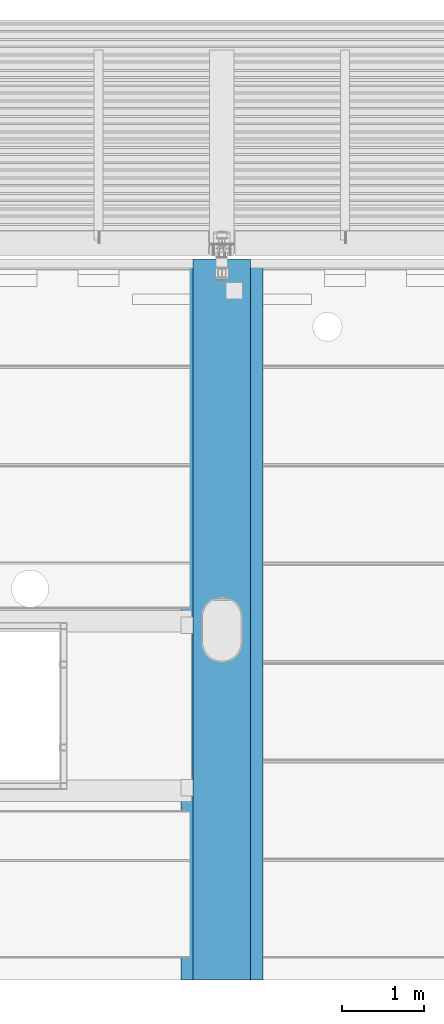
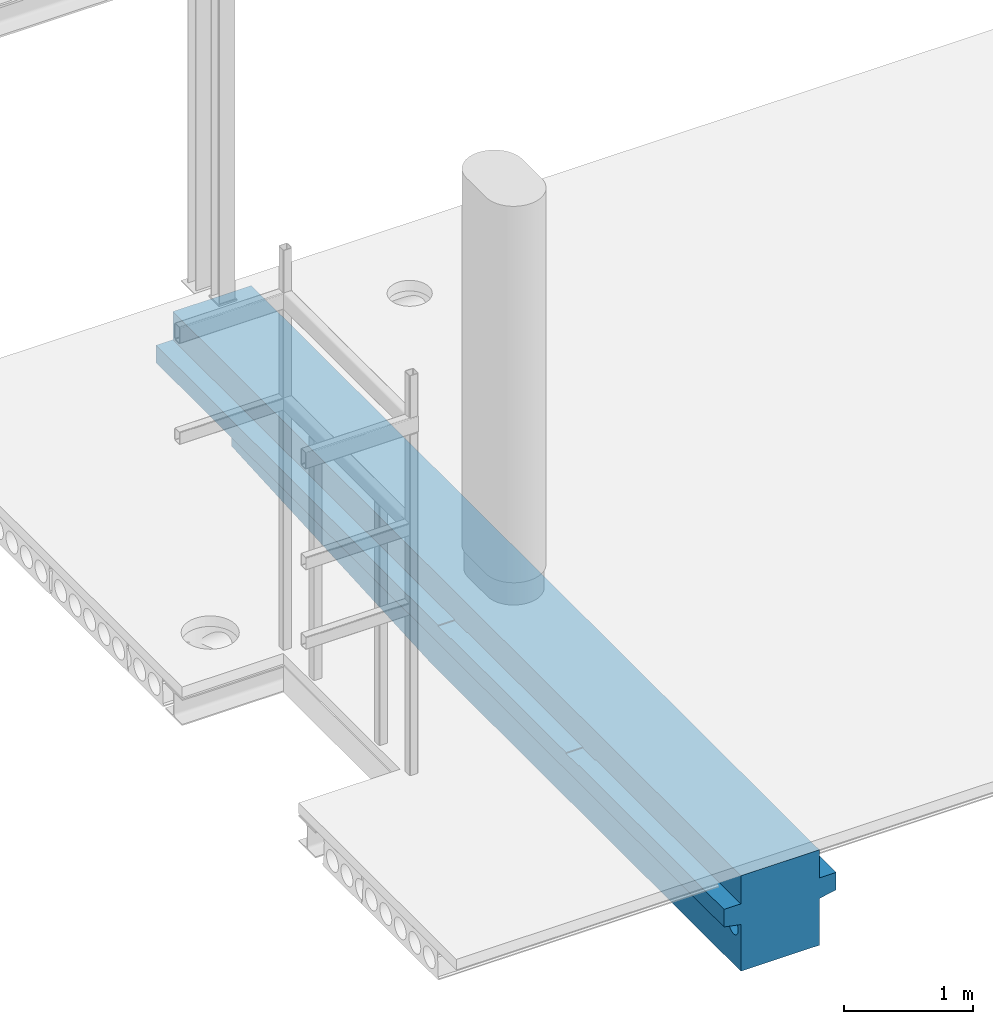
# One storey, part 21 of 34: 1 beam.
"""IFC2X3 building model written with IfcOpenShell, lengths in millimetres."""

from ifc_helpers import new_model, entity, si_unit, converted_unit, derived_unit, direction, frame, origin_with_axes, place, context, subcontext, project, spatial, faceted_brep, type_object, element, save


model = new_model("IFC2X3")

# Units and contexts
model_context = context("Model", 3, precision=0.01, world=frame((0.0, 4.29681676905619e-09, 0.0)), true_north=direction((4.01073788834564e-13, 1.0)))
plan_context = context("Plan", 3, precision=0.01, world=frame((0.0, 4.29681676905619e-09, 0.0)), true_north=direction((4.01073788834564e-13, 1.0)))
body_context = subcontext(model_context, "Body", "Model", "MODEL_VIEW")
ifc_project = project(units=[converted_unit("PLANEANGLEUNIT", "DEGREE", entity("IfcPositiveLengthMeasure", 0.0174532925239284), si_unit("PLANEANGLEUNIT", "RADIAN"), dimensions=[0, 0, 0, 0, 0, 0, 0]), si_unit("AREAUNIT", "SQUARE_METRE"), si_unit("LENGTHUNIT", "METRE", prefix="MILLI"), si_unit("MASSUNIT", "GRAM", prefix="KILO"), si_unit("POWERUNIT", "WATT"), si_unit("PRESSUREUNIT", "PASCAL"), si_unit("FORCEUNIT", "NEWTON", prefix="KILO"), si_unit("ELECTRICVOLTAGEUNIT", "VOLT"), si_unit("ELECTRICCURRENTUNIT", "AMPERE"), si_unit("THERMODYNAMICTEMPERATUREUNIT", "DEGREE_CELSIUS"), si_unit("TIMEUNIT", "SECOND"), si_unit("VOLUMEUNIT", "CUBIC_METRE"), derived_unit("LINEARVELOCITYUNIT", [(si_unit("LENGTHUNIT", "METRE"), 1), (si_unit("TIMEUNIT", "SECOND"), -1)]), derived_unit("VOLUMETRICFLOWRATEUNIT", [(si_unit("VOLUMEUNIT", "CUBIC_METRE"), 1), (si_unit("TIMEUNIT", "SECOND"), -1)]), derived_unit("THERMALTRANSMITTANCEUNIT", [(si_unit("POWERUNIT", "WATT"), 1), (si_unit("THERMODYNAMICTEMPERATUREUNIT", "KELVIN"), -1), (si_unit("AREAUNIT", "SQUARE_METRE"), -1)]), derived_unit("SOUNDPRESSUREUNIT", [(si_unit("PRESSUREUNIT", "PASCAL"), 1)])], contexts=[model_context, plan_context])

# Site, building, storey
site_placement = place(None, frame((0.0, -4.29681676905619e-09, 0.0), z_axis=(0.0, 0.0, 1.0), x_axis=(1.0, 0.0, 0.0)))
site = spatial("IfcSite", under=ifc_project, at=site_placement, Name="Gardermoen", CompositionType="ELEMENT")
building_placement = place(site_placement, frame((0.0, 4.29681676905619e-09, 0.0), z_axis=(0.0, 0.0, 1.0), x_axis=(1.0, 0.0, 0.0)))
building = spatial("IfcBuilding", under=site, at=building_placement, Name="TH", CompositionType="ELEMENT")
storey_placement = place(building_placement, origin_with_axes())
storey = spatial("IfcBuildingStorey", under=building, at=storey_placement, Name="F", CompositionType="ELEMENT", Elevation=0.0)

# Beam
beam_type = type_object("IfcBeamType", Name="AAJKORS265*195*30*900*150*700*700", PredefinedType="NOTDEFINED")
beam_placement = place(storey_placement, frame((897999.999531, 472399.995625, 209580.0), z_axis=(0.0, 0.0, 1.0), x_axis=(0.0, 1.0, 0.0)))
element("IfcBeam", 1, at=beam_placement, inside=storey, type_object=beam_type, Name="PREFABBJELKE", ObjectType="AAJKORS265*195*30*900*150*700*700", context=body_context, shape_type="Brep", body=[
    faceted_brep([(6075.00555743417, 500.0, 175.000000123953), (6075.00555743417, 350.0, 175.000000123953), (5875.00555743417, 349.999998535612, 175.000000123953), (5875.00555743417, 500.0, 175.000000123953), (5875.00555743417, 500.0, 185.0), (5875.00555743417, 350.0, 185.0), (6075.00555743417, 350.0, 185.000000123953), (3634.68129588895, 350.0, 450.0), (3634.68129588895, 350.0, 185.0), (12410.0, 350.0, 185.0), (12410.0, 350.0, 450.0), (7855.00555743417, 350.0, 185.0), (7855.00555743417, 349.999998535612, 175.000000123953), (8055.00555743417, 350.0, 175.000000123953), (8055.00555743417, 350.0, 185.000000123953), (6075.00555743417, 500.0, 185.0), (3634.68129588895, 350.0, -450.0), (3634.68129588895, -350.0, -450.0), (8399.9968947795, -350.0, -450.0), (8399.9968947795, 350.0, -450.0), (11500.0, -350.0, -269.999759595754), (11500.0, 350.0, -269.999759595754), (11500.0, -350.0, -10.0), (11500.0, 350.0, -10.0), (3822.43998449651, -350.0, -70.5855008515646), (3822.43998449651, 350.0, -70.5855008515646), (3814.94745280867, 350.0, -52.496929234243), (3814.94745280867, -350.0, -52.496929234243), (3824.99554752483, -350.0, -89.996929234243), (3824.99554752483, 350.0, -89.996929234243), (3822.43998449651, -350.0, -109.408357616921), (3822.43998449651, 350.0, -109.408357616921), (3814.94745280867, -350.0, -127.496929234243), (3814.94745280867, 350.0, -127.496929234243), (3803.02855611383, -350.0, -143.029937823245), (3803.02855611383, 350.0, -143.029937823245), (3787.49554752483, -350.0, -154.948834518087), (3787.49554752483, 350.0, -154.948834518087), (3769.40697590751, -350.0, -162.441366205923), (3769.40697590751, 350.0, -162.441366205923), (3749.99554752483, -350.0, -164.996929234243), (3749.99554752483, 350.0, -164.996929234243), (3730.58411914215, -350.0, -162.441366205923), (3730.58411914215, 350.0, -162.441366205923), (3712.49554752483, -350.0, -154.948834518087), (3712.49554752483, 350.0, -154.948834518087), (3696.96253893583, -350.0, -143.029937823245), (3696.96253893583, 350.0, -143.029937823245), (3685.04364224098, -350.0, -127.496929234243), (3685.04364224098, 350.0, -127.496929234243), (3677.55111055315, -350.0, -109.408357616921), (3677.55111055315, 350.0, -109.408357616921), (3674.99554752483, -350.0, -89.996929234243), (3674.99554752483, 350.0, -89.996929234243), (3677.55111055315, -350.0, -70.5855008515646), (3677.55111055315, 350.0, -70.5855008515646), (3685.04364224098, -350.0, -52.496929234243), (3685.04364224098, 350.0, -52.496929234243), (3696.96253893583, -350.0, -36.9639206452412), (3696.96253893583, 350.0, -36.9639206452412), (3712.49554752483, -350.0, -25.0450239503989), (3712.49554752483, 350.0, -25.0450239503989), (3730.58411914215, -350.0, -17.5524922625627), (3730.58411914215, 350.0, -17.5524922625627), (3749.99554752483, -350.0, -14.996929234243), (3749.99554752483, 350.0, -14.996929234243), (3769.40697590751, -350.0, -17.5524922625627), (3769.40697590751, 350.0, -17.5524922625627), (3787.49554752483, -350.0, -25.0450239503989), (3787.49554752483, 350.0, -25.0450239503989), (3803.02855611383, -350.0, -36.9639206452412), (3803.02855611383, 350.0, -36.9639206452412), (4122.43998449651, -350.0, -70.5855008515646), (4122.43998449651, 350.0, -70.5855008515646), (4114.94745280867, 350.0, -52.496929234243), (4114.94745280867, -350.0, -52.496929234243), (4124.99554752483, -350.0, -89.996929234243), (4124.99554752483, 350.0, -89.996929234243), (4122.43998449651, -350.0, -109.408357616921), (4122.43998449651, 350.0, -109.408357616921), (4114.94745280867, -350.0, -127.496929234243), (4114.94745280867, 350.0, -127.496929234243), (4103.02855611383, -350.0, -143.029937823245), (4103.02855611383, 350.0, -143.029937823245), (4087.49554752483, -350.0, -154.948834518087), (4087.49554752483, 350.0, -154.948834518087), (4069.40697590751, -350.0, -162.441366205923), (4069.40697590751, 350.0, -162.441366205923), (4049.99554752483, -350.0, -164.996929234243), (4049.99554752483, 350.0, -164.996929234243), (4030.58411914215, -350.0, -162.441366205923), (4030.58411914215, 350.0, -162.441366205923), (4012.49554752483, -350.0, -154.948834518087), (4012.49554752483, 350.0, -154.948834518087), (3996.96253893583, -350.0, -143.029937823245), (3996.96253893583, 350.0, -143.029937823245), (3985.04364224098, -350.0, -127.496929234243), (3985.04364224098, 350.0, -127.496929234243), (3977.55111055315, -350.0, -109.408357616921), (3977.55111055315, 350.0, -109.408357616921), (3974.99554752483, -350.0, -89.996929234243), (3974.99554752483, 350.0, -89.996929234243), (3977.55111055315, -350.0, -70.5855008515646), (3977.55111055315, 350.0, -70.5855008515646), (3985.04364224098, -350.0, -52.496929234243), (3985.04364224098, 350.0, -52.496929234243), (3996.96253893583, -350.0, -36.9639206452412), (3996.96253893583, 350.0, -36.9639206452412), (4012.49554752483, -350.0, -25.0450239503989), (4012.49554752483, 350.0, -25.0450239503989), (4030.58411914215, -350.0, -17.5524922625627), (4030.58411914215, 350.0, -17.5524922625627), (4049.99554752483, -350.0, -14.996929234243), (4049.99554752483, 350.0, -14.996929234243), (4069.40697590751, -350.0, -17.5524922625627), (4069.40697590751, 350.0, -17.5524922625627), (4087.49554752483, -350.0, -25.0450239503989), (4087.49554752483, 350.0, -25.0450239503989), (4103.02855611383, -350.0, -36.9639206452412), (4103.02855611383, 350.0, -36.9639206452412), (4422.43998449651, -350.0, -70.5855008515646), (4422.43998449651, 350.0, -70.5855008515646), (4414.94745280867, 350.0, -52.496929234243), (4414.94745280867, -350.0, -52.496929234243), (4424.99554752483, -350.0, -89.996929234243), (4424.99554752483, 350.0, -89.996929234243), (4422.43998449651, -350.0, -109.408357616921), (4422.43998449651, 350.0, -109.408357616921), (4414.94745280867, -350.0, -127.496929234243), (4414.94745280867, 350.0, -127.496929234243), (4403.02855611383, -350.0, -143.029937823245), (4403.02855611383, 350.0, -143.029937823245), (4387.49554752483, -350.0, -154.948834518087), (4387.49554752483, 350.0, -154.948834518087), (4369.40697590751, -350.0, -162.441366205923), (4369.40697590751, 350.0, -162.441366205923), (4349.99554752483, -350.0, -164.996929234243), (4349.99554752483, 350.0, -164.996929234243), (4330.58411914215, -350.0, -162.441366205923), (4330.58411914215, 350.0, -162.441366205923), (4312.49554752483, -350.0, -154.948834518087), (4312.49554752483, 350.0, -154.948834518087), (4296.96253893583, -350.0, -143.029937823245), (4296.96253893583, 350.0, -143.029937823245), (4285.04364224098, -350.0, -127.496929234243), (4285.04364224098, 350.0, -127.496929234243), (4277.55111055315, -350.0, -109.408357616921), (4277.55111055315, 350.0, -109.408357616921), (4274.99554752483, -350.0, -89.996929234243), (4274.99554752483, 350.0, -89.996929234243), (4277.55111055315, -350.0, -70.5855008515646), (4277.55111055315, 350.0, -70.5855008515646), (4285.04364224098, -350.0, -52.496929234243), (4285.04364224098, 350.0, -52.496929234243), (4296.96253893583, -350.0, -36.9639206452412), (4296.96253893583, 350.0, -36.9639206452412), (4312.49554752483, -350.0, -25.0450239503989), (4312.49554752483, 350.0, -25.0450239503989), (4330.58411914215, -350.0, -17.5524922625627), (4330.58411914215, 350.0, -17.5524922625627), (4349.99554752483, -350.0, -14.996929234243), (4349.99554752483, 350.0, -14.996929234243), (4369.40697590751, -350.0, -17.5524922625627), (4369.40697590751, 350.0, -17.5524922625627), (4387.49554752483, -350.0, -25.0450239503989), (4387.49554752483, 350.0, -25.0450239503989), (4403.02855611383, -350.0, -36.9639206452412), (4403.02855611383, 350.0, -36.9639206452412), (5022.43998449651, -350.0, -70.5855008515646), (5022.43998449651, 350.0, -70.5855008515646), (5014.94745280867, 350.0, -52.496929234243), (5014.94745280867, -350.0, -52.496929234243), (5024.99554752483, -350.0, -89.996929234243), (5024.99554752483, 350.0, -89.996929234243), (5022.43998449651, -350.0, -109.408357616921), (5022.43998449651, 350.0, -109.408357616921), (5014.94745280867, -350.0, -127.496929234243), (5014.94745280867, 350.0, -127.496929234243), (5003.02855611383, -350.0, -143.029937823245), (5003.02855611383, 350.0, -143.029937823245), (4987.49554752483, -350.0, -154.948834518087), (4987.49554752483, 350.0, -154.948834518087), (4969.40697590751, -350.0, -162.441366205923), (4969.40697590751, 350.0, -162.441366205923), (4949.99554752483, -350.0, -164.996929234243), (4949.99554752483, 350.0, -164.996929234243), (4930.58411914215, -350.0, -162.441366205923), (4930.58411914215, 350.0, -162.441366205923), (4912.49554752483, -350.0, -154.948834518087), (4912.49554752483, 350.0, -154.948834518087), (4896.96253893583, -350.0, -143.029937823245), (4896.96253893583, 350.0, -143.029937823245), (4885.04364224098, -350.0, -127.496929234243), (4885.04364224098, 350.0, -127.496929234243), (4877.55111055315, -350.0, -109.408357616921), (4877.55111055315, 350.0, -109.408357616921), (4874.99554752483, -350.0, -89.996929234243), (4874.99554752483, 350.0, -89.996929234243), (4877.55111055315, -350.0, -70.5855008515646), (4877.55111055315, 350.0, -70.5855008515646), (4885.04364224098, -350.0, -52.496929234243), (4885.04364224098, 350.0, -52.496929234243), (4896.96253893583, -350.0, -36.9639206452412), (4896.96253893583, 350.0, -36.9639206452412), (4912.49554752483, -350.0, -25.0450239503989), (4912.49554752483, 350.0, -25.0450239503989), (4930.58411914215, -350.0, -17.5524922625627), (4930.58411914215, 350.0, -17.5524922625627), (4949.99554752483, -350.0, -14.996929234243), (4949.99554752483, 350.0, -14.996929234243), (4969.40697590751, -350.0, -17.5524922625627), (4969.40697590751, 350.0, -17.5524922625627), (4987.49554752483, -350.0, -25.0450239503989), (4987.49554752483, 350.0, -25.0450239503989), (5003.02855611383, -350.0, -36.9639206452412), (5003.02855611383, 350.0, -36.9639206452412), (5322.43998449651, -350.0, -70.5855008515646), (5322.43998449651, 350.0, -70.5855008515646), (5314.94745280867, 350.0, -52.496929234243), (5314.94745280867, -350.0, -52.496929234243), (5324.99554752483, -350.0, -89.996929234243), (5324.99554752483, 350.0, -89.996929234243), (5322.43998449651, -350.0, -109.408357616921), (5322.43998449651, 350.0, -109.408357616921), (5314.94745280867, -350.0, -127.496929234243), (5314.94745280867, 350.0, -127.496929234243), (5303.02855611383, -350.0, -143.029937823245), (5303.02855611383, 350.0, -143.029937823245), (5287.49554752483, -350.0, -154.948834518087), (5287.49554752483, 350.0, -154.948834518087), (5269.40697590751, -350.0, -162.441366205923), (5269.40697590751, 350.0, -162.441366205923), (5249.99554752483, -350.0, -164.996929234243), (5249.99554752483, 350.0, -164.996929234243), (5230.58411914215, -350.0, -162.441366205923), (5230.58411914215, 350.0, -162.441366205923), (5212.49554752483, -350.0, -154.948834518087), (5212.49554752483, 350.0, -154.948834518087), (5196.96253893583, -350.0, -143.029937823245), (5196.96253893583, 350.0, -143.029937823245), (5185.04364224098, -350.0, -127.496929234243), (5185.04364224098, 350.0, -127.496929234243), (5177.55111055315, -350.0, -109.408357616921), (5177.55111055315, 350.0, -109.408357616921), (5174.99554752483, -350.0, -89.996929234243), (5174.99554752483, 350.0, -89.996929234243), (5177.55111055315, -350.0, -70.5855008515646), (5177.55111055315, 350.0, -70.5855008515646), (5185.04364224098, -350.0, -52.496929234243), (5185.04364224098, 350.0, -52.496929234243), (5196.96253893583, -350.0, -36.9639206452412), (5196.96253893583, 350.0, -36.9639206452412), (5212.49554752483, -350.0, -25.0450239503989), (5212.49554752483, 350.0, -25.0450239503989), (5230.58411914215, -350.0, -17.5524922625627), (5230.58411914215, 350.0, -17.5524922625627), (5249.99554752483, -350.0, -14.996929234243), (5249.99554752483, 350.0, -14.996929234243), (5269.40697590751, -350.0, -17.5524922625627), (5269.40697590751, 350.0, -17.5524922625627), (5287.49554752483, -350.0, -25.0450239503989), (5287.49554752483, 350.0, -25.0450239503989), (5303.02855611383, -350.0, -36.9639206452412), (5303.02855611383, 350.0, -36.9639206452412), (7172.43998449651, -350.0, -70.5855008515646), (7172.43998449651, 350.0, -70.5855008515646), (7164.94745280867, 350.0, -52.496929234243), (7164.94745280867, -350.0, -52.496929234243), (7174.99554752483, -350.0, -89.996929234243), (7174.99554752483, 350.0, -89.996929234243), (7172.43998449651, -350.0, -109.408357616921), (7172.43998449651, 350.0, -109.408357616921), (7164.94745280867, -350.0, -127.496929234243), (7164.94745280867, 350.0, -127.496929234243), (7153.02855611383, -350.0, -143.029937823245), (7153.02855611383, 350.0, -143.029937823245), (7137.49554752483, -350.0, -154.948834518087), (7137.49554752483, 350.0, -154.948834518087), (7119.40697590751, -350.0, -162.441366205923), (7119.40697590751, 350.0, -162.441366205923), (7099.99554752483, -350.0, -164.996929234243), (7099.99554752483, 350.0, -164.996929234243), (7080.58411914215, -350.0, -162.441366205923), (7080.58411914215, 350.0, -162.441366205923), (7062.49554752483, -350.0, -154.948834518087), (7062.49554752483, 350.0, -154.948834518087), (7046.96253893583, -350.0, -143.029937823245), (7046.96253893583, 350.0, -143.029937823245), (7035.04364224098, -350.0, -127.496929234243), (7035.04364224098, 350.0, -127.496929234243), (7027.55111055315, -350.0, -109.408357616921), (7027.55111055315, 350.0, -109.408357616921), (7024.99554752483, -350.0, -89.996929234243), (7024.99554752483, 350.0, -89.996929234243), (7027.55111055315, -350.0, -70.5855008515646), (7027.55111055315, 350.0, -70.5855008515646), (7035.04364224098, -350.0, -52.496929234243), (7035.04364224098, 350.0, -52.496929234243), (7046.96253893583, -350.0, -36.9639206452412), (7046.96253893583, 350.0, -36.9639206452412), (7062.49554752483, -350.0, -25.0450239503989), (7062.49554752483, 350.0, -25.0450239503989), (7080.58411914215, -350.0, -17.5524922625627), (7080.58411914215, 350.0, -17.5524922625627), (7099.99554752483, -350.0, -14.996929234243), (7099.99554752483, 350.0, -14.996929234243), (7119.40697590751, -350.0, -17.5524922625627), (7119.40697590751, 350.0, -17.5524922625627), (7137.49554752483, -350.0, -25.0450239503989), (7137.49554752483, 350.0, -25.0450239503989), (7153.02855611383, -350.0, -36.9639206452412), (7153.02855611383, 350.0, -36.9639206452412), (3634.68129588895, 350.0, -10.0), (4722.43998449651, 350.0, -70.5855008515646), (4724.99554752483, 350.0, -89.996929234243), (4722.43998449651, 350.0, -109.408357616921), (4714.94745280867, 350.0, -127.496929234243), (4703.02855611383, 350.0, -143.029937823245), (4687.49554752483, 350.0, -154.948834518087), (4669.40697590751, 350.0, -162.441366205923), (4649.99554752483, 350.0, -164.996929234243), (4630.58411914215, 350.0, -162.441366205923), (4612.49554752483, 350.0, -154.948834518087), (4596.96253893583, 350.0, -143.029937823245), (4585.04364224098, 350.0, -127.496929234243), (4577.55111055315, 350.0, -109.408357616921), (4574.99554752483, 350.0, -89.996929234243), (4577.55111055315, 350.0, -70.5855008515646), (4585.04364224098, 350.0, -52.496929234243), (4596.96253893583, 350.0, -36.9639206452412), (4612.49554752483, 350.0, -25.0450239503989), (4630.58411914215, 350.0, -17.5524922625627), (4649.99554752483, 350.0, -14.996929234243), (4669.40697590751, 350.0, -17.5524922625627), (4687.49554752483, 350.0, -25.0450239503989), (4703.02855611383, 350.0, -36.9639206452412), (4714.94745280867, 350.0, -52.496929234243), (4724.99554752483, -350.0, -89.996929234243), (4722.43998449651, -350.0, -70.5855008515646), (4722.43998449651, -350.0, -109.408357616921), (4714.94745280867, -350.0, -127.496929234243), (4703.02855611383, -350.0, -143.029937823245), (4687.49554752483, -350.0, -154.948834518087), (4669.40697590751, -350.0, -162.441366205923), (4649.99554752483, -350.0, -164.996929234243), (4630.58411914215, -350.0, -162.441366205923), (4612.49554752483, -350.0, -154.948834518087), (4596.96253893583, -350.0, -143.029937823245), (4585.04364224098, -350.0, -127.496929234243), (4577.55111055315, -350.0, -109.408357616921), (4574.99554752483, -350.0, -89.996929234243), (4577.55111055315, -350.0, -70.5855008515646), (4585.04364224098, -350.0, -52.496929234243), (4596.96253893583, -350.0, -36.9639206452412), (4612.49554752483, -350.0, -25.0450239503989), (4630.58411914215, -350.0, -17.5524922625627), (4649.99554752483, -350.0, -14.996929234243), (4669.40697590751, -350.0, -17.5524922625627), (4687.49554752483, -350.0, -25.0450239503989), (4703.02855611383, -350.0, -36.9639206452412), (4714.94745280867, -350.0, -52.496929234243), (3634.68129588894, -350.0, -10.0), (3634.68129588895, -500.0, 20.0), (12410.0, -500.0, 20.0), (12410.0, -350.0, -10.0), (12410.0, 350.0, -10.0), (12125.1437883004, -49.9958718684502, -10.0), (12125.1453083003, -249.99587186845, -10.0), (11925.1453083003, -249.997391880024, -10.0), (11925.1437883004, -49.9973918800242, -10.0), (3634.68129588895, 500.0, 20.0), (12410.0, 500.0, 20.0), (3634.68129588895, -500.0, 185.0), (12410.0, -500.0, 185.0), (3634.68129588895, -350.0, 185.0), (12410.0, -350.0, 185.0), (3634.68129588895, -350.0, 450.0), (12410.0, -350.0, 450.0), (12125.1437883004, -49.9958718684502, 0.0), (11925.1437883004, -49.9973918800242, 0.0), (11925.1453083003, -249.997391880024, 0.0), (12125.1453083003, -249.99587186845, 0.0), (12410.0, 500.0, 185.0), (8055.00555743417, 500.0, 185.0), (8055.00555743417, 500.0, 175.000000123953), (7855.00555743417, 500.0, 175.000000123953), (7855.00555743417, 500.0, 185.0), (3634.68129588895, 500.0, 185.0)], [[[0, 1, 2, 3]], [[4, 3, 2, 5]], [[5, 2, 1, 6]], [[7, 8, 9, 10]], [[11, 12, 13, 14]], [[6, 1, 0, 15]], [[16, 17, 18, 19]], [[18, 20, 21, 19]], [[21, 20, 22, 23]], [[24, 25, 26, 27]], [[28, 29, 25, 24]], [[30, 31, 29, 28]], [[32, 33, 31, 30]], [[34, 35, 33, 32]], [[36, 37, 35, 34]], [[38, 39, 37, 36]], [[40, 41, 39, 38]], [[42, 43, 41, 40]], [[44, 45, 43, 42]], [[46, 47, 45, 44]], [[48, 49, 47, 46]], [[50, 51, 49, 48]], [[52, 53, 51, 50]], [[54, 55, 53, 52]], [[56, 57, 55, 54]], [[58, 59, 57, 56]], [[60, 61, 59, 58]], [[62, 63, 61, 60]], [[64, 65, 63, 62]], [[66, 67, 65, 64]], [[68, 69, 67, 66]], [[70, 71, 69, 68]], [[27, 26, 71, 70]], [[72, 73, 74, 75]], [[76, 77, 73, 72]], [[78, 79, 77, 76]], [[80, 81, 79, 78]], [[82, 83, 81, 80]], [[84, 85, 83, 82]], [[86, 87, 85, 84]], [[88, 89, 87, 86]], [[90, 91, 89, 88]], [[92, 93, 91, 90]], [[94, 95, 93, 92]], [[96, 97, 95, 94]], [[98, 99, 97, 96]], [[100, 101, 99, 98]], [[102, 103, 101, 100]], [[104, 105, 103, 102]], [[106, 107, 105, 104]], [[108, 109, 107, 106]], [[110, 111, 109, 108]], [[112, 113, 111, 110]], [[114, 115, 113, 112]], [[116, 117, 115, 114]], [[118, 119, 117, 116]], [[75, 74, 119, 118]], [[120, 121, 122, 123]], [[124, 125, 121, 120]], [[126, 127, 125, 124]], [[128, 129, 127, 126]], [[130, 131, 129, 128]], [[132, 133, 131, 130]], [[134, 135, 133, 132]], [[136, 137, 135, 134]], [[138, 139, 137, 136]], [[140, 141, 139, 138]], [[142, 143, 141, 140]], [[144, 145, 143, 142]], [[146, 147, 145, 144]], [[148, 149, 147, 146]], [[150, 151, 149, 148]], [[152, 153, 151, 150]], [[154, 155, 153, 152]], [[156, 157, 155, 154]], [[158, 159, 157, 156]], [[160, 161, 159, 158]], [[162, 163, 161, 160]], [[164, 165, 163, 162]], [[166, 167, 165, 164]], [[123, 122, 167, 166]], [[168, 169, 170, 171]], [[172, 173, 169, 168]], [[174, 175, 173, 172]], [[176, 177, 175, 174]], [[178, 179, 177, 176]], [[180, 181, 179, 178]], [[182, 183, 181, 180]], [[184, 185, 183, 182]], [[186, 187, 185, 184]], [[188, 189, 187, 186]], [[190, 191, 189, 188]], [[192, 193, 191, 190]], [[194, 195, 193, 192]], [[196, 197, 195, 194]], [[198, 199, 197, 196]], [[200, 201, 199, 198]], [[202, 203, 201, 200]], [[204, 205, 203, 202]], [[206, 207, 205, 204]], [[208, 209, 207, 206]], [[210, 211, 209, 208]], [[212, 213, 211, 210]], [[214, 215, 213, 212]], [[171, 170, 215, 214]], [[216, 217, 218, 219]], [[220, 221, 217, 216]], [[222, 223, 221, 220]], [[224, 225, 223, 222]], [[226, 227, 225, 224]], [[228, 229, 227, 226]], [[230, 231, 229, 228]], [[232, 233, 231, 230]], [[234, 235, 233, 232]], [[236, 237, 235, 234]], [[238, 239, 237, 236]], [[240, 241, 239, 238]], [[242, 243, 241, 240]], [[244, 245, 243, 242]], [[246, 247, 245, 244]], [[248, 249, 247, 246]], [[250, 251, 249, 248]], [[252, 253, 251, 250]], [[254, 255, 253, 252]], [[256, 257, 255, 254]], [[258, 259, 257, 256]], [[260, 261, 259, 258]], [[262, 263, 261, 260]], [[219, 218, 263, 262]], [[264, 265, 266, 267]], [[268, 269, 265, 264]], [[270, 271, 269, 268]], [[272, 273, 271, 270]], [[274, 275, 273, 272]], [[276, 277, 275, 274]], [[278, 279, 277, 276]], [[280, 281, 279, 278]], [[282, 283, 281, 280]], [[284, 285, 283, 282]], [[286, 287, 285, 284]], [[288, 289, 287, 286]], [[290, 291, 289, 288]], [[292, 293, 291, 290]], [[294, 295, 293, 292]], [[296, 297, 295, 294]], [[298, 299, 297, 296]], [[300, 301, 299, 298]], [[302, 303, 301, 300]], [[304, 305, 303, 302]], [[306, 307, 305, 304]], [[308, 309, 307, 306]], [[310, 311, 309, 308]], [[267, 266, 311, 310]], [[312, 16, 19, 21, 23], [313, 314, 315, 316, 317, 318, 319, 320, 321, 322, 323, 324, 325, 326, 327, 328, 329, 330, 331, 332, 333, 334, 335, 336], [265, 269, 271, 273, 275, 277, 279, 281, 283, 285, 287, 289, 291, 293, 295, 297, 299, 301, 303, 305, 307, 309, 311, 266], [217, 221, 223, 225, 227, 229, 231, 233, 235, 237, 239, 241, 243, 245, 247, 249, 251, 253, 255, 257, 259, 261, 263, 218], [169, 173, 175, 177, 179, 181, 183, 185, 187, 189, 191, 193, 195, 197, 199, 201, 203, 205, 207, 209, 211, 213, 215, 170], [121, 125, 127, 129, 131, 133, 135, 137, 139, 141, 143, 145, 147, 149, 151, 153, 155, 157, 159, 161, 163, 165, 167, 122], [73, 77, 79, 81, 83, 85, 87, 89, 91, 93, 95, 97, 99, 101, 103, 105, 107, 109, 111, 113, 115, 117, 119, 74], [25, 29, 31, 33, 35, 37, 39, 41, 43, 45, 47, 49, 51, 53, 55, 57, 59, 61, 63, 65, 67, 69, 71, 26]], [[337, 314, 313, 338]], [[339, 315, 314, 337]], [[340, 316, 315, 339]], [[341, 317, 316, 340]], [[342, 318, 317, 341]], [[343, 319, 318, 342]], [[344, 320, 319, 343]], [[345, 321, 320, 344]], [[346, 322, 321, 345]], [[347, 323, 322, 346]], [[348, 324, 323, 347]], [[349, 325, 324, 348]], [[350, 326, 325, 349]], [[351, 327, 326, 350]], [[352, 328, 327, 351]], [[353, 329, 328, 352]], [[354, 330, 329, 353]], [[355, 331, 330, 354]], [[356, 332, 331, 355]], [[357, 333, 332, 356]], [[358, 334, 333, 357]], [[359, 335, 334, 358]], [[360, 336, 335, 359]], [[338, 313, 336, 360]], [[17, 361, 22, 20, 18], [339, 337, 338, 360, 359, 358, 357, 356, 355, 354, 353, 352, 351, 350, 349, 348, 347, 346, 345, 344, 343, 342, 341, 340], [270, 268, 264, 267, 310, 308, 306, 304, 302, 300, 298, 296, 294, 292, 290, 288, 286, 284, 282, 280, 278, 276, 274, 272], [222, 220, 216, 219, 262, 260, 258, 256, 254, 252, 250, 248, 246, 244, 242, 240, 238, 236, 234, 232, 230, 228, 226, 224], [174, 172, 168, 171, 214, 212, 210, 208, 206, 204, 202, 200, 198, 196, 194, 192, 190, 188, 186, 184, 182, 180, 178, 176], [126, 124, 120, 123, 166, 164, 162, 160, 158, 156, 154, 152, 150, 148, 146, 144, 142, 140, 138, 136, 134, 132, 130, 128], [78, 76, 72, 75, 118, 116, 114, 112, 110, 108, 106, 104, 102, 100, 98, 96, 94, 92, 90, 88, 86, 84, 82, 80], [30, 28, 24, 27, 70, 68, 66, 64, 62, 60, 58, 56, 54, 52, 50, 48, 46, 44, 42, 40, 38, 36, 34, 32]], [[361, 362, 363, 364]], [[365, 23, 22, 364], [366, 367, 368, 369]], [[370, 312, 365, 371]], [[362, 372, 373, 363]], [[372, 374, 375, 373]], [[374, 376, 377, 375]], [[376, 7, 10, 377]], [[378, 379, 380, 381]], [[367, 381, 380, 368]], [[368, 380, 379, 369]], [[369, 379, 378, 366]], [[366, 378, 381, 367]], [[365, 364, 363, 373, 375, 377, 10, 9, 382, 371]], [[14, 383, 382, 9]], [[14, 13, 384, 383]], [[384, 13, 12, 385]], [[386, 385, 12, 11]], [[8, 387, 4, 5]], [[387, 370, 371, 382, 383, 384, 385, 386, 15, 0, 3, 4]], [[6, 15, 386, 11]], [[376, 374, 372, 362, 361, 17, 16, 312, 370, 387, 8, 7]]], orient=[[False], [False], [False], [False], [False], [False], [False], [False], [False], [False], [False], [False], [False], [False], [False], [False], [False], [False], [False], [False], [False], [False], [False], [False], [False], [False], [False], [False], [False], [False], [False], [False], [False], [False], [False], [False], [False], [False], [False], [False], [False], [False], [False], [False], [False], [False], [False], [False], [False], [False], [False], [False], [False], [False], [False], [False], [False], [False], [False], [False], [False], [False], [False], [False], [False], [False], [False], [False], [False], [False], [False], [False], [False], [False], [False], [False], [False], [False], [False], [False], [False], [False], [False], [False], [False], [False], [False], [False], [False], [False], [False], [False], [False], [False], [False], [False], [False], [False], [False], [False], [False], [False], [False], [False], [False], [False], [False], [False], [False], [False], [False], [False], [False], [False], [False], [False], [False], [False], [False], [False], [False], [False], [False], [False], [False], [False], [False], [False], [False], [False], [False], [False], [False], [False], [False], [False], [False], [False], [False], [False], [False], [False], [False], [False], [False], [False], [False], [False], [False], [False], [False], [False], [False], [False, False, False, False, False, False, False, False], [False], [False], [False], [False], [False], [False], [False], [False], [False], [False], [False], [False], [False], [False], [False], [False], [False], [False], [False], [False], [False], [False], [False], [False], [False, False, False, False, False, False, False, False], [False], [False, False], [False], [False], [False], [False], [False], [False], [False], [False], [False], [False], [False], [False], [False], [False], [False], [False], [False], [False], [False]]),
])

save(model, "model.ifc")
